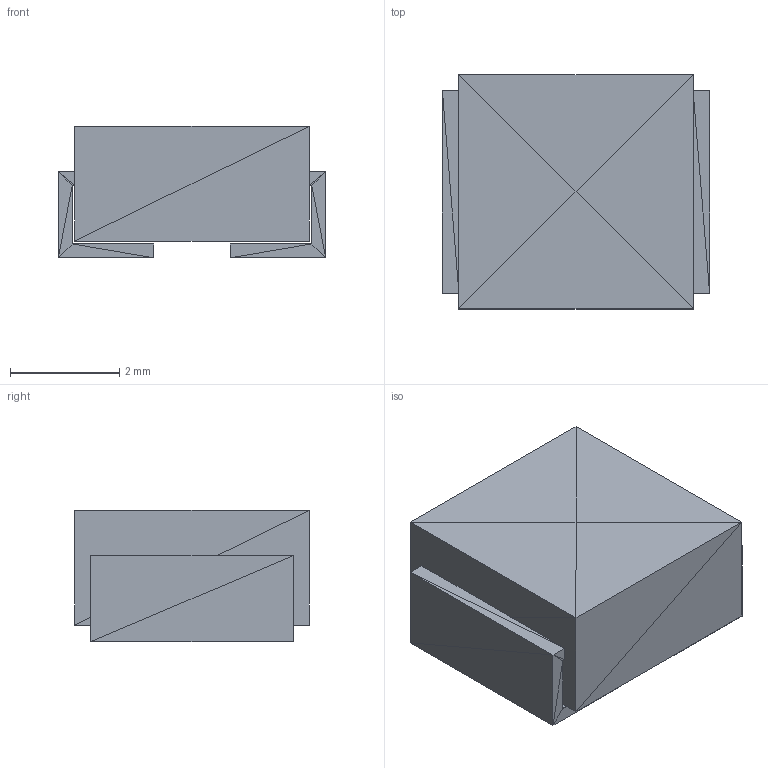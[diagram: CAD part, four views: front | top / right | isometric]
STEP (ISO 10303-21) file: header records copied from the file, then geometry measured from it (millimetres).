
FILE_DESCRIPTION(('STEP AP214'),'1');
FILE_NAME('XAL4020','2020-10-28T14:52:05',(''),(''),'','','');
FILE_SCHEMA(('AUTOMOTIVE_DESIGN'));
Length unit declared in the file: millimetre
Products named in the file (1): product
Bounding box: 4.9 x 4.29 x 2.41 mm (x, y, z)
Surface area: 126.4 mm2 (no closed solid volume)
Topology: 0 solids, 72 shells, 72 faces, 216 edges, 216 vertices
Faces by surface type: plane 72
Entity records: 2435 total; most frequent: CARTESIAN_POINT 505, DIRECTION 362, ORIENTED_EDGE 216, EDGE_CURVE 216, VERTEX_POINT 216, LINE 216, VECTOR 216, AXIS2_PLACEMENT_3D 73
